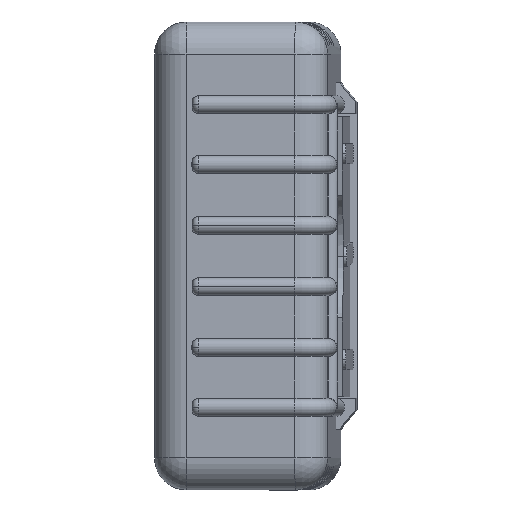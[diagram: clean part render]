
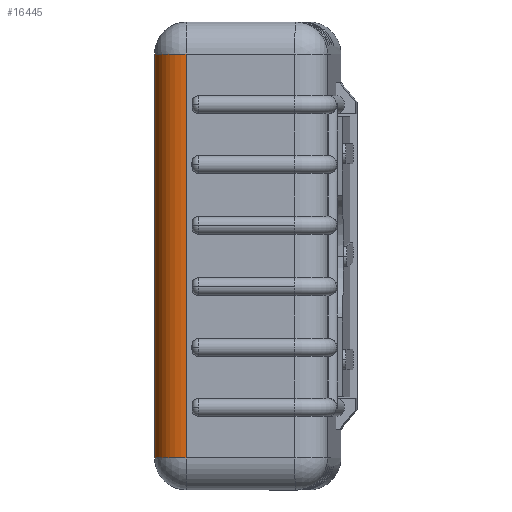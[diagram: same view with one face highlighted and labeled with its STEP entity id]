
A CAD part, left-side view. The second image highlights one B-rep face of the part: STEP entity #16445.
In plain terms, the highlighted cylindrical face has radius 5 mm (diameter 10 mm), a partial arc.
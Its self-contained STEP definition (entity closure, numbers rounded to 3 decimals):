
#129 = ORIENTED_EDGE ( 'NONE', *, *, #17960, .T. ) ;
#932 = AXIS2_PLACEMENT_3D ( 'NONE', #18957, #9198, #2355 ) ;
#2298 = VECTOR ( 'NONE', #22541, 1000. ) ;
#2344 = CARTESIAN_POINT ( 'NONE',  ( -65.087, 21.975, -31.512 ) ) ;
#2355 = DIRECTION ( 'NONE',  ( -1., 0., 0. ) ) ;
#2650 = FACE_OUTER_BOUND ( 'NONE', #29684, .T. ) ;
#3472 = CARTESIAN_POINT ( 'NONE',  ( -65.087, 21.975, 31.513 ) ) ;
#3509 = CARTESIAN_POINT ( 'NONE',  ( -60.087, 26.975, 31.513 ) ) ;
#3527 = CARTESIAN_POINT ( 'NONE',  ( -60.087, 21.975, -31.512 ) ) ;
#4967 = AXIS2_PLACEMENT_3D ( 'NONE', #3527, #20164, #5913 ) ;
#5913 = DIRECTION ( 'NONE',  ( -1., 0., 0. ) ) ;
#6603 = CARTESIAN_POINT ( 'NONE',  ( -60.087, 26.975, 31.513 ) ) ;
#8107 = VERTEX_POINT ( 'NONE', #3472 ) ;
#8488 = CIRCLE ( 'NONE', #4967, 5. ) ;
#9198 = DIRECTION ( 'NONE',  ( 0., 0., -1. ) ) ;
#10926 = EDGE_CURVE ( 'NONE', #8107, #24186, #29540, .T. ) ;
#11794 = CARTESIAN_POINT ( 'NONE',  ( -60.087, 26.975, -31.512 ) ) ;
#11870 = DIRECTION ( 'NONE',  ( 0., 0., -1. ) ) ;
#12821 = EDGE_CURVE ( 'NONE', #24186, #27124, #8488, .T. ) ;
#12961 = ORIENTED_EDGE ( 'NONE', *, *, #10926, .F. ) ;
#13634 = CARTESIAN_POINT ( 'NONE',  ( -60.087, 21.975, 31.513 ) ) ;
#13819 = CYLINDRICAL_SURFACE ( 'NONE', #932, 5. ) ;
#14021 = VERTEX_POINT ( 'NONE', #6603 ) ;
#14192 = LINE ( 'NONE', #3509, #2298 ) ;
#16001 = DIRECTION ( 'NONE',  ( -1., 0., 0. ) ) ;
#16445 = ADVANCED_FACE ( 'NONE', ( #2650 ), #13819, .T. ) ;
#17960 = EDGE_CURVE ( 'NONE', #8107, #14021, #19489, .T. ) ;
#18957 = CARTESIAN_POINT ( 'NONE',  ( -60.087, 21.975, 0. ) ) ;
#19489 = CIRCLE ( 'NONE', #19504, 5. ) ;
#19504 = AXIS2_PLACEMENT_3D ( 'NONE', #13634, #30189, #16001 ) ;
#20164 = DIRECTION ( 'NONE',  ( 0., 0., -1. ) ) ;
#20386 = CARTESIAN_POINT ( 'NONE',  ( -65.087, 21.975, -31.512 ) ) ;
#20834 = EDGE_CURVE ( 'NONE', #27124, #14021, #14192, .T. ) ;
#22541 = DIRECTION ( 'NONE',  ( 0., 0., 1. ) ) ;
#23265 = VECTOR ( 'NONE', #11870, 1000. ) ;
#24186 = VERTEX_POINT ( 'NONE', #20386 ) ;
#27124 = VERTEX_POINT ( 'NONE', #11794 ) ;
#27208 = ORIENTED_EDGE ( 'NONE', *, *, #12821, .F. ) ;
#28788 = ORIENTED_EDGE ( 'NONE', *, *, #20834, .F. ) ;
#29540 = LINE ( 'NONE', #2344, #23265 ) ;
#29684 = EDGE_LOOP ( 'NONE', ( #27208, #12961, #129, #28788 ) ) ;
#30189 = DIRECTION ( 'NONE',  ( 0., 0., -1. ) ) ;
